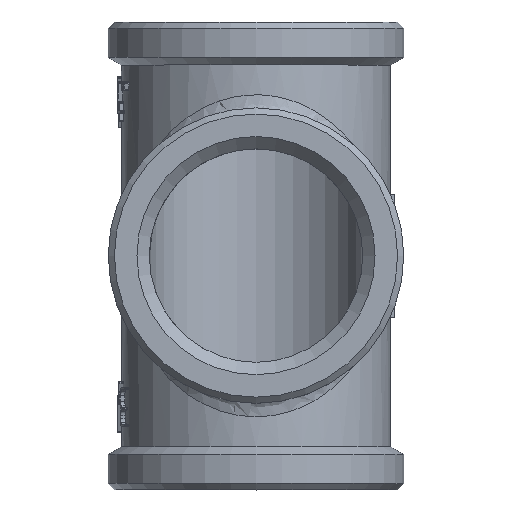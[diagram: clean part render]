
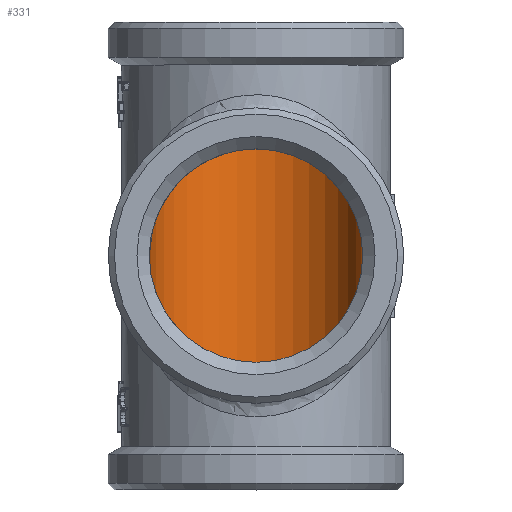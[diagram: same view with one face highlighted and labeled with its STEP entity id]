
A CAD part, top view. The second image highlights one B-rep face of the part: STEP entity #331.
In plain terms, the highlighted cylindrical face has radius 12.1 mm (diameter 24.2 mm), a full revolution.
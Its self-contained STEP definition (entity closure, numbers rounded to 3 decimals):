
#331=ADVANCED_FACE('',(#2708,#2710,#2712),#2714,.F.);
#2708=FACE_BOUND('',#2709,.T.);
#2709=EDGE_LOOP('',(#5367,#5368,#5369));
#2710=FACE_OUTER_BOUND('',#2711,.T.);
#2711=EDGE_LOOP('',(#5370));
#2712=FACE_OUTER_BOUND('',#2713,.T.);
#2713=EDGE_LOOP('',(#5371));
#2714=CYLINDRICAL_SURFACE('',#2715,12.1);
#2715=AXIS2_PLACEMENT_3D('',#2716,#2717,#2718);
#2716=CARTESIAN_POINT('',(0.,-27.5,0.));
#2717=DIRECTION('',(0.,1.,0.));
#2718=DIRECTION('',(-1.,0.,0.));
#5367=ORIENTED_EDGE('',*,*,#6750,.T.);
#5368=ORIENTED_EDGE('',*,*,#6749,.T.);
#5369=ORIENTED_EDGE('',*,*,#6748,.T.);
#5370=ORIENTED_EDGE('',*,*,#6747,.T.);
#5371=ORIENTED_EDGE('',*,*,#6746,.T.);
#6746=EDGE_CURVE('',#8377,#8377,#8378,.F.);
#6747=EDGE_CURVE('',#8379,#8379,#8380,.T.);
#6748=EDGE_CURVE('',#8381,#8382,#8383,.T.);
#6749=EDGE_CURVE('',#8384,#8381,#8385,.F.);
#6750=EDGE_CURVE('',#8382,#8384,#8386,.F.);
#8377=VERTEX_POINT('',#15668);
#8378=CIRCLE('',#15669,12.1);
#8379=VERTEX_POINT('',#15673);
#8380=CIRCLE('',#15674,12.1);
#8381=VERTEX_POINT('',#15678);
#8382=VERTEX_POINT('',#15679);
#8383=(BOUNDED_CURVE()B_SPLINE_CURVE(3,
(#15680,#15681,#15682,#15683),
.UNSPECIFIED.,.F.,.F.)B_SPLINE_CURVE_WITH_KNOTS((4,4),
(0.,1.),
.UNSPECIFIED.)CURVE()GEOMETRIC_REPRESENTATION_ITEM()RATIONAL_B_SPLINE_CURVE((1.,
0.333,0.333,1.))REPRESENTATION_ITEM(''));
#8384=VERTEX_POINT('',#15684);
#8385=(BOUNDED_CURVE()B_SPLINE_CURVE(3,
(#15685,#15686,#15687,#15688),
.UNSPECIFIED.,.F.,.F.)B_SPLINE_CURVE_WITH_KNOTS((4,4),
(0.,1.),
.UNSPECIFIED.)CURVE()GEOMETRIC_REPRESENTATION_ITEM()RATIONAL_B_SPLINE_CURVE((1.,
0.805,0.805,1.))REPRESENTATION_ITEM(''));
#8386=(BOUNDED_CURVE()B_SPLINE_CURVE(3,
(#15689,#15690,#15691,#15692),
.UNSPECIFIED.,.F.,.F.)B_SPLINE_CURVE_WITH_KNOTS((4,4),
(0.,1.),
.UNSPECIFIED.)CURVE()GEOMETRIC_REPRESENTATION_ITEM()RATIONAL_B_SPLINE_CURVE((1.,
0.805,0.805,1.))REPRESENTATION_ITEM(''));
#15668=CARTESIAN_POINT('',(-12.1,-25.1,0.));
#15669=AXIS2_PLACEMENT_3D('',#15670,#15671,#15672);
#15670=CARTESIAN_POINT('',(0.,-25.1,0.));
#15671=DIRECTION('',(0.,1.,0.));
#15672=DIRECTION('',(-1.,0.,0.));
#15673=CARTESIAN_POINT('',(-12.1,25.1,0.));
#15674=AXIS2_PLACEMENT_3D('',#15675,#15676,#15677);
#15675=CARTESIAN_POINT('',(0.,25.1,0.));
#15676=DIRECTION('',(0.,1.,0.));
#15677=DIRECTION('',(-1.,0.,0.));
#15678=CARTESIAN_POINT('',(-12.1,0.,0.));
#15679=CARTESIAN_POINT('',(12.1,0.,0.));
#15680=CARTESIAN_POINT('',(-12.1,0.,0.));
#15681=CARTESIAN_POINT('',(-12.1,-24.2,24.2));
#15682=CARTESIAN_POINT('',(12.1,-24.2,24.2));
#15683=CARTESIAN_POINT('',(12.1,0.,0.));
#15684=CARTESIAN_POINT('',(0.,12.1,12.1));
#15685=CARTESIAN_POINT('',(-12.1,0.,0.));
#15686=CARTESIAN_POINT('',(-12.1,7.088,7.088));
#15687=CARTESIAN_POINT('',(-7.088,12.1,12.1));
#15688=CARTESIAN_POINT('',(0.,12.1,12.1));
#15689=CARTESIAN_POINT('',(0.,12.1,12.1));
#15690=CARTESIAN_POINT('',(7.088,12.1,12.1));
#15691=CARTESIAN_POINT('',(12.1,7.088,7.088));
#15692=CARTESIAN_POINT('',(12.1,0.,0.));
